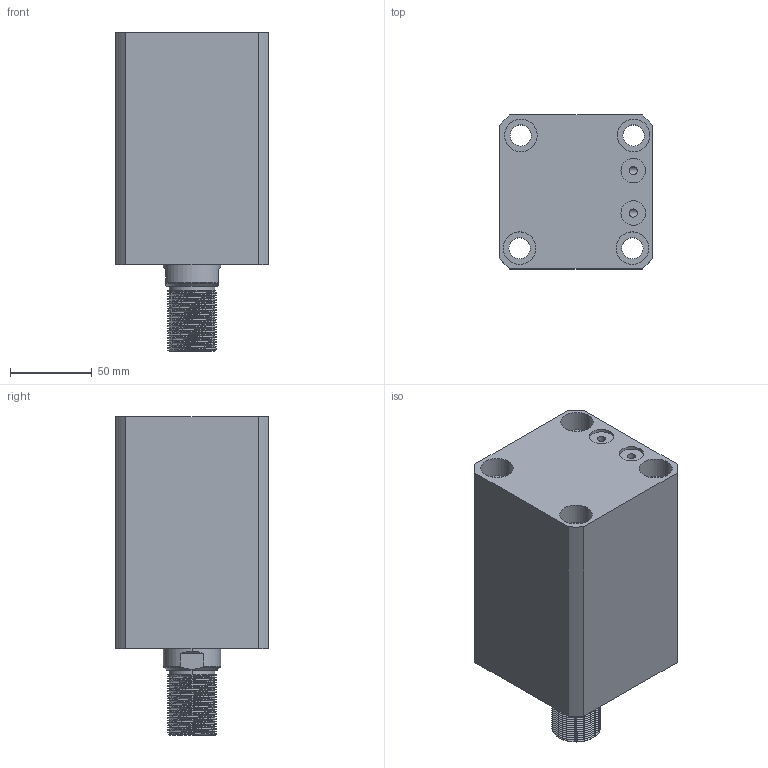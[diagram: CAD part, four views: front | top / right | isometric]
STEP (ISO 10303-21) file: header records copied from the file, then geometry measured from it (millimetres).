
FILE_DESCRIPTION (( 'STEP AP214' ), '1' );
FILE_NAME ('chtb-sdmb63x75w_asm.STEP', '2018-05-18T11:56:07', ( 'Windows' ), ( 'Microsoft' ), 'SwSTEP 2.0', 'SolidWorks 2015', '' );
FILE_SCHEMA (( 'AUTOMOTIVE_DESIGN' ));
Length unit declared in the file: millimetre
Products named in the file (4): CHTB-SDMB63X75NBT; CHTB63X75WHSG; CHTB-63QG; chtb-sdmb63x75w_asm
Assembly tree (3 placements, depth 2):
  chtb-sdmb63x75w_asm
    CHTB-63QG
    CHTB63X75WHSG
    CHTB-SDMB63X75NBT
Bounding box: 94 x 94 x 195 mm (x, y, z)
Volume: 1023533.4 mm3; surface area: 171286.9 mm2
Topology: 3 solids, 3 shells, 218 faces, 628 edges, 427 vertices
Faces by surface type: cylinder 156, plane 33, bspline 14, cone 9, torus 6
Entity records: 22278 total; most frequent: CARTESIAN_POINT 17042, ORIENTED_EDGE 1248, DIRECTION 869, EDGE_CURVE 624, VERTEX_POINT 427, AXIS2_PLACEMENT_3D 339, EDGE_LOOP 251, FACE_OUTER_BOUND 218
